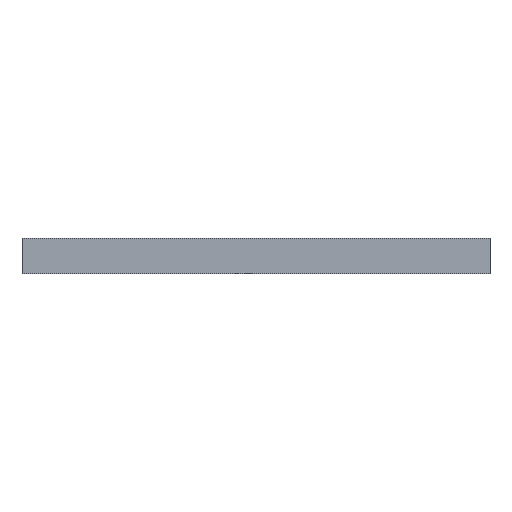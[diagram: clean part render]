
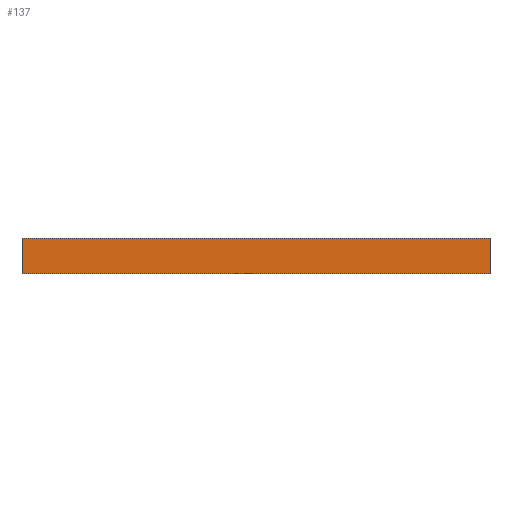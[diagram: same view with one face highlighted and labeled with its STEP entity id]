
A CAD part, front view. The second image highlights one B-rep face of the part: STEP entity #137.
In plain terms, the highlighted planar face has unit normal (0, -1, 0).
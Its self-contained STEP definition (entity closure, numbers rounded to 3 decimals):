
#21 = EDGE_CURVE('',#22,#24,#26,.T.);
#22 = VERTEX_POINT('',#23);
#23 = CARTESIAN_POINT('',(38.,-15.5,-12.));
#24 = VERTEX_POINT('',#25);
#25 = CARTESIAN_POINT('',(38.,-15.5,-10.5));
#26 = SURFACE_CURVE('',#27,(#31,#43),.PCURVE_S1.);
#27 = LINE('',#28,#29);
#28 = CARTESIAN_POINT('',(38.,-15.5,-12.));
#29 = VECTOR('',#30,1.);
#30 = DIRECTION('',(0.,0.,1.));
#31 = PCURVE('',#32,#37);
#32 = PLANE('',#33);
#33 = AXIS2_PLACEMENT_3D('',#34,#35,#36);
#34 = CARTESIAN_POINT('',(38.,-15.5,-12.));
#35 = DIRECTION('',(1.,0.,-0.));
#36 = DIRECTION('',(0.,0.,1.));
#37 = DEFINITIONAL_REPRESENTATION('',(#38),#42);
#38 = LINE('',#39,#40);
#39 = CARTESIAN_POINT('',(0.,0.));
#40 = VECTOR('',#41,1.);
#41 = DIRECTION('',(1.,0.));
#42 = ( GEOMETRIC_REPRESENTATION_CONTEXT(2) 
PARAMETRIC_REPRESENTATION_CONTEXT() REPRESENTATION_CONTEXT('2D SPACE',''
  ) );
#43 = PCURVE('',#44,#49);
#44 = PLANE('',#45);
#45 = AXIS2_PLACEMENT_3D('',#46,#47,#48);
#46 = CARTESIAN_POINT('',(38.,-15.5,-12.));
#47 = DIRECTION('',(-0.,1.,0.));
#48 = DIRECTION('',(0.,0.,1.));
#49 = DEFINITIONAL_REPRESENTATION('',(#50),#54);
#50 = LINE('',#51,#52);
#51 = CARTESIAN_POINT('',(0.,0.));
#52 = VECTOR('',#53,1.);
#53 = DIRECTION('',(1.,0.));
#54 = ( GEOMETRIC_REPRESENTATION_CONTEXT(2) 
PARAMETRIC_REPRESENTATION_CONTEXT() REPRESENTATION_CONTEXT('2D SPACE',''
  ) );
#72 = PLANE('',#73);
#73 = AXIS2_PLACEMENT_3D('',#74,#75,#76);
#74 = CARTESIAN_POINT('',(38.,-15.5,-12.));
#75 = DIRECTION('',(0.,0.,1.));
#76 = DIRECTION('',(1.,0.,-0.));
#126 = PLANE('',#127);
#127 = AXIS2_PLACEMENT_3D('',#128,#129,#130);
#128 = CARTESIAN_POINT('',(38.,-15.5,-10.5));
#129 = DIRECTION('',(0.,0.,1.));
#130 = DIRECTION('',(1.,0.,-0.));
#137 = ADVANCED_FACE('',(#138),#44,.F.);
#138 = FACE_BOUND('',#139,.F.);
#139 = EDGE_LOOP('',(#140,#163,#164,#187));
#140 = ORIENTED_EDGE('',*,*,#141,.F.);
#141 = EDGE_CURVE('',#22,#142,#144,.T.);
#142 = VERTEX_POINT('',#143);
#143 = CARTESIAN_POINT('',(58.,-15.5,-12.));
#144 = SURFACE_CURVE('',#145,(#149,#156),.PCURVE_S1.);
#145 = LINE('',#146,#147);
#146 = CARTESIAN_POINT('',(38.,-15.5,-12.));
#147 = VECTOR('',#148,1.);
#148 = DIRECTION('',(1.,0.,-0.));
#149 = PCURVE('',#44,#150);
#150 = DEFINITIONAL_REPRESENTATION('',(#151),#155);
#151 = LINE('',#152,#153);
#152 = CARTESIAN_POINT('',(0.,0.));
#153 = VECTOR('',#154,1.);
#154 = DIRECTION('',(0.,1.));
#155 = ( GEOMETRIC_REPRESENTATION_CONTEXT(2) 
PARAMETRIC_REPRESENTATION_CONTEXT() REPRESENTATION_CONTEXT('2D SPACE',''
  ) );
#156 = PCURVE('',#72,#157);
#157 = DEFINITIONAL_REPRESENTATION('',(#158),#162);
#158 = LINE('',#159,#160);
#159 = CARTESIAN_POINT('',(0.,0.));
#160 = VECTOR('',#161,1.);
#161 = DIRECTION('',(1.,0.));
#162 = ( GEOMETRIC_REPRESENTATION_CONTEXT(2) 
PARAMETRIC_REPRESENTATION_CONTEXT() REPRESENTATION_CONTEXT('2D SPACE',''
  ) );
#163 = ORIENTED_EDGE('',*,*,#21,.T.);
#164 = ORIENTED_EDGE('',*,*,#165,.T.);
#165 = EDGE_CURVE('',#24,#166,#168,.T.);
#166 = VERTEX_POINT('',#167);
#167 = CARTESIAN_POINT('',(58.,-15.5,-10.5));
#168 = SURFACE_CURVE('',#169,(#173,#180),.PCURVE_S1.);
#169 = LINE('',#170,#171);
#170 = CARTESIAN_POINT('',(38.,-15.5,-10.5));
#171 = VECTOR('',#172,1.);
#172 = DIRECTION('',(1.,0.,-0.));
#173 = PCURVE('',#44,#174);
#174 = DEFINITIONAL_REPRESENTATION('',(#175),#179);
#175 = LINE('',#176,#177);
#176 = CARTESIAN_POINT('',(1.5,0.));
#177 = VECTOR('',#178,1.);
#178 = DIRECTION('',(0.,1.));
#179 = ( GEOMETRIC_REPRESENTATION_CONTEXT(2) 
PARAMETRIC_REPRESENTATION_CONTEXT() REPRESENTATION_CONTEXT('2D SPACE',''
  ) );
#180 = PCURVE('',#126,#181);
#181 = DEFINITIONAL_REPRESENTATION('',(#182),#186);
#182 = LINE('',#183,#184);
#183 = CARTESIAN_POINT('',(0.,0.));
#184 = VECTOR('',#185,1.);
#185 = DIRECTION('',(1.,0.));
#186 = ( GEOMETRIC_REPRESENTATION_CONTEXT(2) 
PARAMETRIC_REPRESENTATION_CONTEXT() REPRESENTATION_CONTEXT('2D SPACE',''
  ) );
#187 = ORIENTED_EDGE('',*,*,#188,.F.);
#188 = EDGE_CURVE('',#142,#166,#189,.T.);
#189 = SURFACE_CURVE('',#190,(#194,#201),.PCURVE_S1.);
#190 = LINE('',#191,#192);
#191 = CARTESIAN_POINT('',(58.,-15.5,-12.));
#192 = VECTOR('',#193,1.);
#193 = DIRECTION('',(0.,0.,1.));
#194 = PCURVE('',#44,#195);
#195 = DEFINITIONAL_REPRESENTATION('',(#196),#200);
#196 = LINE('',#197,#198);
#197 = CARTESIAN_POINT('',(0.,20.));
#198 = VECTOR('',#199,1.);
#199 = DIRECTION('',(1.,0.));
#200 = ( GEOMETRIC_REPRESENTATION_CONTEXT(2) 
PARAMETRIC_REPRESENTATION_CONTEXT() REPRESENTATION_CONTEXT('2D SPACE',''
  ) );
#201 = PCURVE('',#202,#207);
#202 = PLANE('',#203);
#203 = AXIS2_PLACEMENT_3D('',#204,#205,#206);
#204 = CARTESIAN_POINT('',(58.,-15.5,-12.));
#205 = DIRECTION('',(1.,0.,-0.));
#206 = DIRECTION('',(0.,0.,1.));
#207 = DEFINITIONAL_REPRESENTATION('',(#208),#212);
#208 = LINE('',#209,#210);
#209 = CARTESIAN_POINT('',(0.,0.));
#210 = VECTOR('',#211,1.);
#211 = DIRECTION('',(1.,0.));
#212 = ( GEOMETRIC_REPRESENTATION_CONTEXT(2) 
PARAMETRIC_REPRESENTATION_CONTEXT() REPRESENTATION_CONTEXT('2D SPACE',''
  ) );
